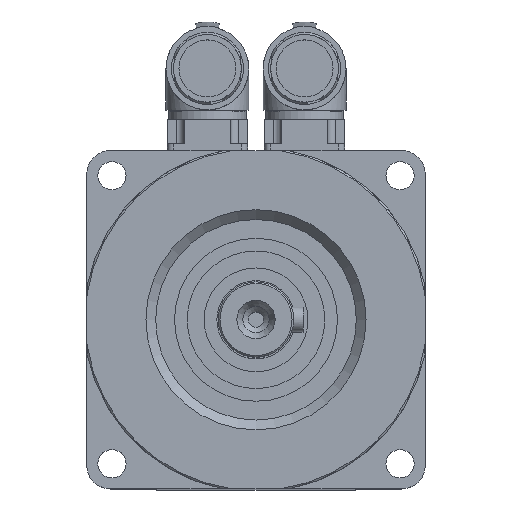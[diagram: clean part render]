
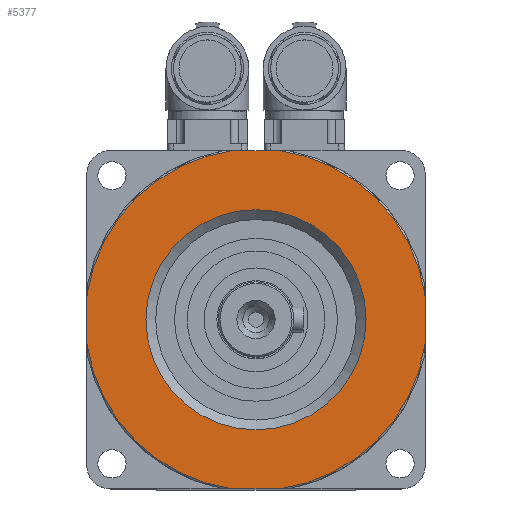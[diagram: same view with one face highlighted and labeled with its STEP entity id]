
A CAD part, top view. The second image highlights one B-rep face of the part: STEP entity #5377.
In plain terms, the highlighted planar face has unit normal (0, 0, 1).
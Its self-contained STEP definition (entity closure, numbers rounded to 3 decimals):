
#196=PLANE('',#7002);
#659=LINE('',#10346,#1072);
#661=LINE('',#10350,#1074);
#662=LINE('',#10364,#1075);
#663=LINE('',#10378,#1076);
#665=LINE('',#10382,#1078);
#666=LINE('',#10396,#1079);
#1072=VECTOR('',#8382,1000.);
#1074=VECTOR('',#8386,1000.);
#1075=VECTOR('',#8393,1000.);
#1076=VECTOR('',#8400,1000.);
#1078=VECTOR('',#8404,1000.);
#1079=VECTOR('',#8411,1000.);
#1272=CIRCLE('',#6882,35.13);
#1329=CIRCLE('',#6989,54.5);
#1330=CIRCLE('',#6993,54.5);
#1331=CIRCLE('',#6996,54.5);
#1332=CIRCLE('',#7000,54.5);
#2614=ORIENTED_EDGE('',*,*,#3398,.T.);
#2615=ORIENTED_EDGE('',*,*,#3531,.F.);
#2616=ORIENTED_EDGE('',*,*,#3550,.F.);
#2617=ORIENTED_EDGE('',*,*,#3548,.F.);
#2618=ORIENTED_EDGE('',*,*,#3546,.T.);
#2619=ORIENTED_EDGE('',*,*,#3544,.T.);
#2620=ORIENTED_EDGE('',*,*,#3542,.F.);
#2621=ORIENTED_EDGE('',*,*,#3540,.F.);
#2622=ORIENTED_EDGE('',*,*,#3538,.F.);
#2623=ORIENTED_EDGE('',*,*,#3536,.T.);
#2624=ORIENTED_EDGE('',*,*,#3534,.T.);
#3398=EDGE_CURVE('',#3982,#3982,#1272,.T.);
#3531=EDGE_CURVE('',#4063,#4064,#1329,.T.);
#3534=EDGE_CURVE('',#4065,#4064,#659,.T.);
#3536=EDGE_CURVE('',#4066,#4065,#661,.T.);
#3538=EDGE_CURVE('',#4066,#4067,#1330,.T.);
#3540=EDGE_CURVE('',#4067,#4068,#662,.T.);
#3542=EDGE_CURVE('',#4068,#4069,#1331,.T.);
#3544=EDGE_CURVE('',#4070,#4069,#663,.T.);
#3546=EDGE_CURVE('',#4071,#4070,#665,.T.);
#3548=EDGE_CURVE('',#4071,#4072,#1332,.T.);
#3550=EDGE_CURVE('',#4072,#4063,#666,.T.);
#3982=VERTEX_POINT('',#10071);
#4063=VERTEX_POINT('',#10335);
#4064=VERTEX_POINT('',#10336);
#4065=VERTEX_POINT('',#10347);
#4066=VERTEX_POINT('',#10351);
#4067=VERTEX_POINT('',#10358);
#4068=VERTEX_POINT('',#10365);
#4069=VERTEX_POINT('',#10372);
#4070=VERTEX_POINT('',#10379);
#4071=VERTEX_POINT('',#10383);
#4072=VERTEX_POINT('',#10390);
#4541=EDGE_LOOP('',(#2614));
#4542=EDGE_LOOP('',(#2615,#2616,#2617,#2618,#2619,#2620,#2621,#2622,#2623,
#2624));
#4939=FACE_BOUND('',#4541,.T.);
#4940=FACE_BOUND('',#4542,.T.);
#5377=ADVANCED_FACE('',(#4939,#4940),#196,.T.);
#6882=AXIS2_PLACEMENT_3D('',#10070,#8088,#8089);
#6989=AXIS2_PLACEMENT_3D('',#10334,#8378,#8379);
#6993=AXIS2_PLACEMENT_3D('',#10357,#8389,#8390);
#6996=AXIS2_PLACEMENT_3D('',#10371,#8396,#8397);
#7000=AXIS2_PLACEMENT_3D('',#10389,#8407,#8408);
#7002=AXIS2_PLACEMENT_3D('',#10397,#8412,#8413);
#8088=DIRECTION('',(0.,0.,-1.));
#8089=DIRECTION('',(-1.,0.,0.));
#8378=DIRECTION('',(0.,0.,-1.));
#8379=DIRECTION('',(-1.,0.,0.));
#8382=DIRECTION('',(-0.009,1.,0.));
#8386=DIRECTION('',(0.009,1.,0.));
#8389=DIRECTION('',(0.,0.,-1.));
#8390=DIRECTION('',(-1.,0.,0.));
#8393=DIRECTION('',(-1.,0.,0.));
#8396=DIRECTION('',(0.,0.,-1.));
#8397=DIRECTION('',(-1.,0.,0.));
#8400=DIRECTION('',(0.009,-1.,0.));
#8404=DIRECTION('',(-0.009,-1.,0.));
#8407=DIRECTION('',(0.,0.,-1.));
#8408=DIRECTION('',(-1.,0.,0.));
#8411=DIRECTION('',(1.,0.,0.));
#8412=DIRECTION('',(0.,0.,1.));
#8413=DIRECTION('',(1.,0.,0.));
#10070=CARTESIAN_POINT('',(0.,0.,1.94));
#10071=CARTESIAN_POINT('',(-35.13,0.,1.94));
#10334=CARTESIAN_POINT('',(0.,0.,1.94));
#10335=CARTESIAN_POINT('',(7.365,54.,1.94));
#10336=CARTESIAN_POINT('',(53.931,7.851,1.94));
#10346=CARTESIAN_POINT('',(54.,0.,1.94));
#10347=CARTESIAN_POINT('',(54.,0.,1.94));
#10350=CARTESIAN_POINT('',(53.529,-54.,1.94));
#10351=CARTESIAN_POINT('',(53.931,-7.851,1.94));
#10357=CARTESIAN_POINT('',(0.,0.,1.94));
#10358=CARTESIAN_POINT('',(7.365,-54.,1.94));
#10364=CARTESIAN_POINT('',(-46.5,-54.,1.94));
#10365=CARTESIAN_POINT('',(-7.365,-54.,1.94));
#10371=CARTESIAN_POINT('',(0.,0.,1.94));
#10372=CARTESIAN_POINT('',(-53.931,-7.851,1.94));
#10378=CARTESIAN_POINT('',(-54.,0.,1.94));
#10379=CARTESIAN_POINT('',(-54.,0.,1.94));
#10382=CARTESIAN_POINT('',(-53.529,54.,1.94));
#10383=CARTESIAN_POINT('',(-53.931,7.851,1.94));
#10389=CARTESIAN_POINT('',(0.,0.,1.94));
#10390=CARTESIAN_POINT('',(-7.365,54.,1.94));
#10396=CARTESIAN_POINT('',(46.5,54.,1.94));
#10397=CARTESIAN_POINT('',(0.,54.5,1.94));
